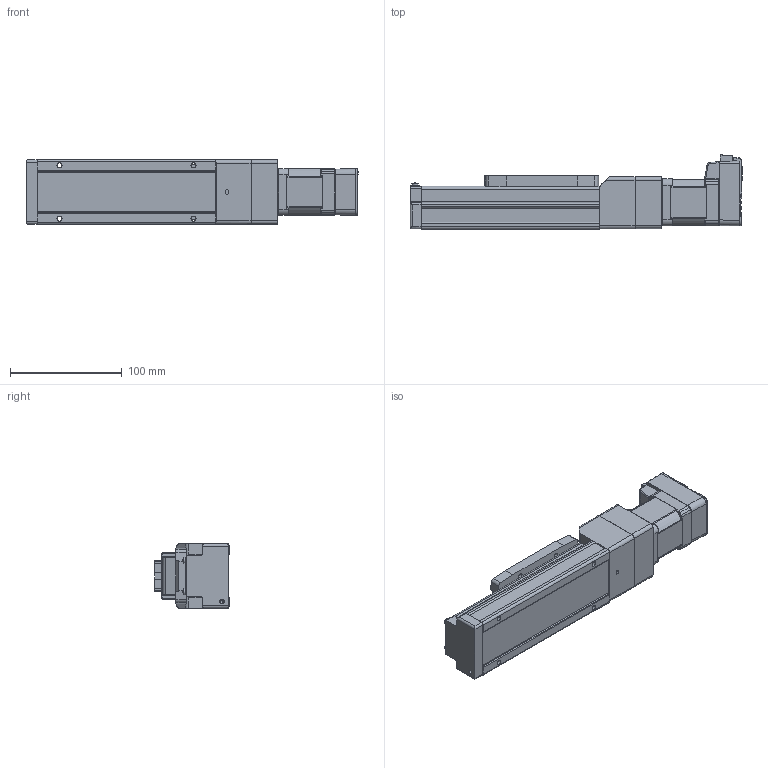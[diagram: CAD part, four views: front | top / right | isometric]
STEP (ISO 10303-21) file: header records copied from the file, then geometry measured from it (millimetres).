
FILE_DESCRIPTION (( 'STEP AP214' ), '1' );
FILE_NAME ('LEFS3(+)-25NM1Œû-50-17L.STEP', '2023-05-31T02:46:58', ( '' ), ( '' ), 'SwSTEP 2.0', 'SolidWorks 2019', '' );
FILE_SCHEMA (( 'AUTOMOTIVE_DESIGN' ));
Length unit declared in the file: millimetre
Products named in the file (5): LEFS3(+)-25NM1仩_BODY_50; CM3(+)-17L50A; LEFS3(+)-25NM1_MOTOR Flange; LEFS3(+)-25NM1口-50-17L; LEFS3(+)-25NM1_TABLE
Assembly tree (4 placements, depth 2):
  LEFS3(+)-25NM1口-50-17L
    LEFS3(+)-25NM1仩_BODY_50
    LEFS3(+)-25NM1_TABLE
    LEFS3(+)-25NM1_MOTOR Flange
    CM3(+)-17L50A
Bounding box: 297.3 x 66.75 x 58 mm (x, y, z)
Volume: 640293.6 mm3; surface area: 98753.5 mm2
Topology: 5 solids, 5 shells, 987 faces, 2542 edges, 1600 vertices
Faces by surface type: plane 513, cylinder 302, cone 83, torus 39, bspline 29, sphere 21
Entity records: 40084 total; most frequent: CARTESIAN_POINT 7320, ORIENTED_EDGE 5022, DIRECTION 4826, EDGE_CURVE 2511, AXIS2_PLACEMENT_3D 1618, VERTEX_POINT 1600, VECTOR 1590, LINE 1590
